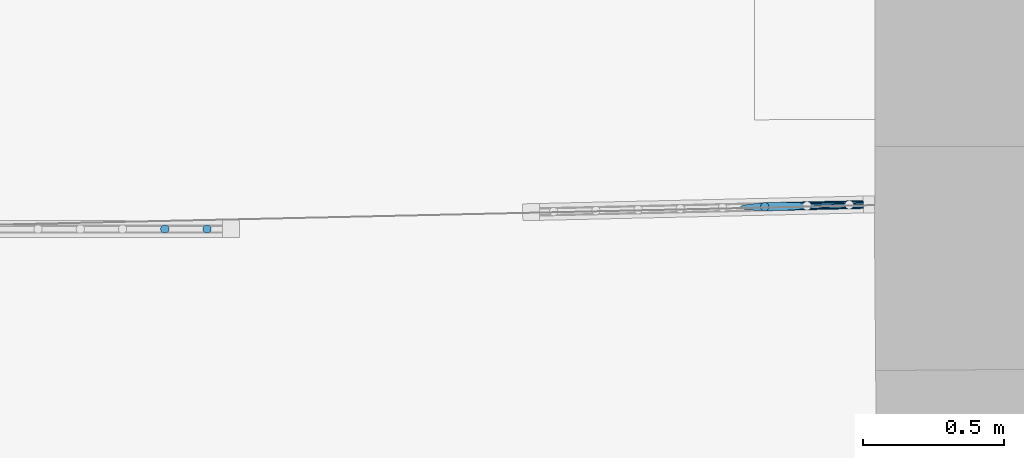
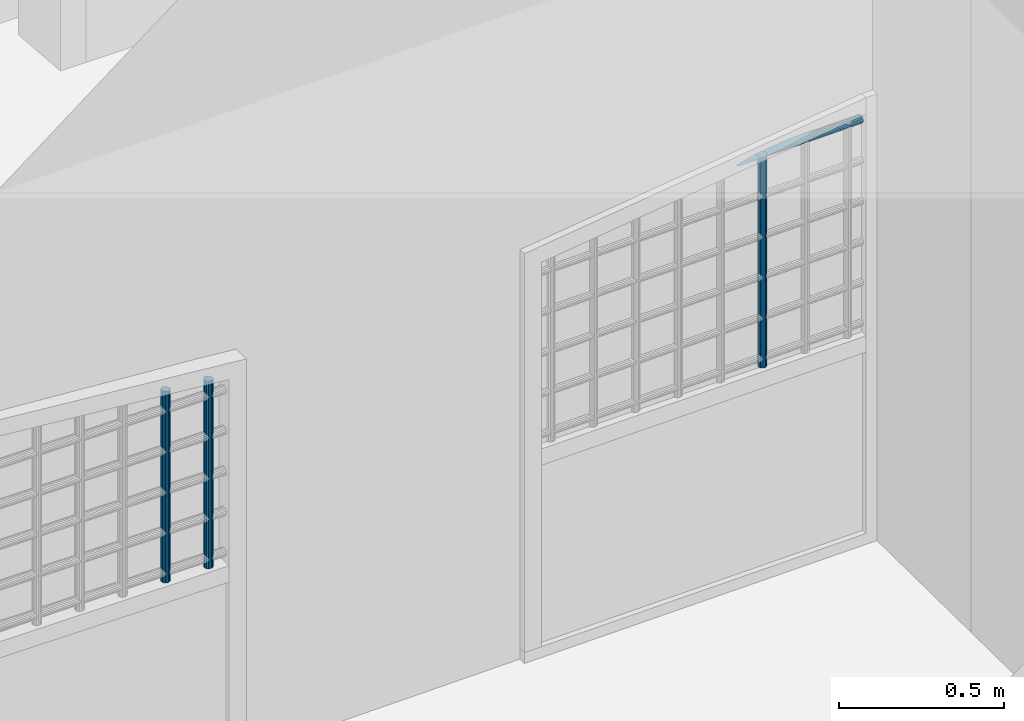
# One storey, part 58 of 133: 4 members, 2 elements without a shape of their own.
"""IFC2X3 building model written with IfcOpenShell, lengths in centimetres."""

from ifc_helpers import new_model, entity, si_unit, converted_unit, direction, frame, origin, origin_with_axes, place, context, subcontext, project, spatial, faceted_brep, material, type_object, element, aggregate, save


model = new_model("IFC2X3")

# Units and contexts
model_context = context("Model", 3, precision=0.0001, world=origin(), true_north=direction((0.225632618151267, 0.974212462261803, 0.0)))
body_context = subcontext(model_context, "Body", "Model", "MODEL_VIEW")
ifc_project = project(units=[si_unit("LENGTHUNIT", "METRE", prefix="CENTI"), si_unit("AREAUNIT", "SQUARE_METRE", prefix="CENTI"), si_unit("VOLUMEUNIT", "CUBIC_METRE", prefix="CENTI"), converted_unit("PLANEANGLEUNIT", "DEGREE", entity("IfcRatioMeasure", 0.0174532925), si_unit("PLANEANGLEUNIT", "RADIAN"), dimensions=[0, 0, 0, 0, 0, 0, 0])], contexts=[model_context])

# Site, building, storey
site_placement = place(None, origin_with_axes())
site = spatial("IfcSite", under=ifc_project, at=site_placement, Name="Default Site", CompositionType="ELEMENT")
building_placement = place(site_placement, origin_with_axes())
building = spatial("IfcBuilding", under=site, at=building_placement, Name="Default Building", CompositionType="ELEMENT")
storey_placement = place(building_placement, frame((0.0, 0.0, -291.400371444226), z_axis=(0.0, 0.0, 1.0), x_axis=(1.0, 0.0, 0.0)))
storey = spatial("IfcBuildingStorey", under=building, at=storey_placement, Name="Rez-de-Jardin", CompositionType="ELEMENT", Elevation=-291.400371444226)

# Assembly, members
building_element_proxy_type = type_object("IfcBuildingElementProxyType", Name="Type Object", PredefinedType="NOTDEFINED")
assembly_1_placement = place(storey_placement, frame((230.29031879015, 209.448968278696, 0.0), z_axis=(0.0, 0.0, 1.0), x_axis=(-0.999739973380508, -0.0228031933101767, 0.0)))
assembly_1 = element("IfcElementAssembly", 1, at=assembly_1_placement, inside=storey, type_object=building_element_proxy_type, Name="Panneau 76236", ObjectType="Precast panel", PredefinedType="USERDEFINED")
ifc_material = material(Name="Noyer 01")
member_1_placement = place(assembly_1_placement, frame((47.2249358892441, -2.48696978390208, 154.087889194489), z_axis=(0.112050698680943, 1.59542506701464e-08, 0.993702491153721), x_axis=(0.975500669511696, -0.190522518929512, -0.109998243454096)))
member_1 = element("IfcMember", 2, at=member_1_placement, material=ifc_material, Name="4294966848", context=body_context, shape_type="Brep", body=[
    faceted_brep([(1.66533453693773e-14, 2.0122792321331e-14, 6.66133814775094e-14), (-2.36796779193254, 4.30211422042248e-14, 1.98292383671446e-07), (-5.92800725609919, -0.349818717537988, 4.96408125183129e-07), (-10.2507347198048, -1.00726463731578, 8.58390939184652e-07), (-14.8147555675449, -1.89303825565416, 1.24057952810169e-06), (-19.069590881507, -2.90030401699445, 1.59687709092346e-06), (-22.5020363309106, -3.90756907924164, 1.88430818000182e-06), (-24.6980922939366, -4.79334326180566, 2.06820469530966e-06), (-25.3928824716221, -5.45078920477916, 2.12638604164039e-06), (-24.5026046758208, -5.80060916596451, 2.05183466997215e-06), (-22.1346397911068, -5.80060973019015, 1.85354259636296e-06), (-18.5745988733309, -5.45079073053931, 1.55542673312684e-06), (-14.2518714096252, -4.79334481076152, 1.19344391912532e-06), (-9.68785056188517, -3.90757119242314, 8.11255330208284e-07), (-5.43301524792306, -2.90030543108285, 4.54957767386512e-07), (-2.0005712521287, -1.89304065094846, 1.67526800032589e-07), (0.195487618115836, -1.00726590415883, -1.63699587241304e-08), (0.890276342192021, -0.349820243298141, -7.45511833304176e-08), (-42.0582601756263, -8.68516346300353, -4.93327064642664), (-41.9704663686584, -9.19072748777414, -4.84338429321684), (-41.9131634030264, -9.63917547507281, -4.58455232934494), (-41.8932621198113, -9.97641782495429, -4.18800043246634), (-41.9131638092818, -10.1617783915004, -3.70155032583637), (-41.9704667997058, -10.172899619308, -3.18388638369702), (-42.0582606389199, -10.0084403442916, -2.69743627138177), (-42.165954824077, -9.68823663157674, -2.30088436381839), (-42.280560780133, -9.25090987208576, -2.04205238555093), (-42.388254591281, -8.74920799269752, -1.9521660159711), (-42.4760483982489, -8.2436439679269, -2.04205236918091), (-42.5333513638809, -7.79519598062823, -2.30088433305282), (-42.553252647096, -7.45795363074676, -2.69743622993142), (-42.5333509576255, -7.27259306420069, -3.18388633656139), (-42.4760479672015, -7.261471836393, -3.70155027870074), (-42.3882541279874, -7.42593111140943, -4.18800039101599), (-42.2805599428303, -7.74613482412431, -4.58455229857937), (-42.1659539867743, -8.18346158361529, -4.84338427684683), (0.890276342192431, -0.349820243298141, 4.82385522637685e-06), (0.195486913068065, -1.0072651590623, 4.86276861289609e-06), (-41.9704670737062, -9.19072674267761, -4.84337941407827), (0.195487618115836, -1.00726590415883, -1.63699498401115e-08), (-2.00057124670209, -1.89304066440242, -5.52770087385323e-08), (-41.9131633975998, -9.63917548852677, -4.58455235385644), (-41.9704663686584, -9.19072748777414, -4.84338429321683), (-2.00057125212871, -1.89304065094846, -3.07655012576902e-08), (-5.43301546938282, -2.90030467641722, -4.64172173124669e-07), (-41.8932623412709, -9.97641707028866, -4.18799977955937), (-41.9131634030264, -9.63917547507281, -4.58455232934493), (-5.43301524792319, -2.90030543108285, -1.11707914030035e-06), (-9.68785018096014, -3.90757280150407, 3.54749132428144e-06), (-41.9131634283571, -10.1617800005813, -3.70155092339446), (-9.68785056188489, -3.90757119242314, 4.14504941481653e-06), (-14.2518714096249, -4.79334481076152, 4.79852804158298e-06), (-18.5745991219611, -5.45078909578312, 9.46878383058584e-06), (-42.0582608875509, -10.0084387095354, -2.69743686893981), (-18.5745988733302, -5.45079073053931, 1.00663418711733e-05), (-22.1346397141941, -5.80061051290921, 9.47665140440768e-06), (-42.165954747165, -9.6882374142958, -2.30088371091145), (-22.1346397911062, -5.80060973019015, 8.82374446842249e-06), (-24.5026046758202, -5.80060915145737, 9.1331700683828e-06), (-42.280560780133, -9.25090985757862, -2.04205241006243), (-42.1659548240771, -9.68823663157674, -2.30088436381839), (-24.5026046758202, -5.80060916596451, 9.15768156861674e-06), (-25.39288284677, -5.45079015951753, 9.04599639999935e-06), (-42.3882549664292, -8.74920894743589, -1.95216113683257), (-25.3928824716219, -5.45078920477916, 4.16685785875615e-06), (-24.6980915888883, -4.79334400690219, 4.29491302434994e-06), (-42.4760476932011, -8.24364471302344, -2.04205724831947), (-42.388254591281, -8.74920799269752, -1.95216601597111), (-24.698092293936, -4.79334326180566, 9.17405158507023e-06), (-22.5020363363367, -3.90756906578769, 8.87902154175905e-06), (-42.5333513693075, -7.79519596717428, -2.30088430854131), (-22.50203633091, -3.90756907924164, 8.85451003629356e-06), (-19.0695906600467, -2.90030477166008, 9.4548852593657e-06), (-42.5532524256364, -7.45795438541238, -2.69743688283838), (-19.0695908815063, -2.90030401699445, 1.01077922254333e-05), (-14.8147559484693, -1.89303664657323, 5.44322176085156e-06), (-42.5333513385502, -7.27259145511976, -3.1838857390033), (-42.553252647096, -7.45795363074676, -2.69743622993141), (-14.8147555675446, -1.89303825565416, 4.84566367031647e-06), (-10.2507347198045, -1.00726463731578, 4.19218504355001e-06), (-5.92800700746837, -0.349820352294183, -4.78070745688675e-07), (-42.3882538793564, -7.42593274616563, -4.18799979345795), (-42.4760479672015, -7.26147183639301, -3.70155027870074), (-5.92800725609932, -0.349818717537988, -1.07562878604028e-06), (-2.36796786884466, 7.82719105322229e-07, -6.52906869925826e-07), (-42.2805600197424, -7.74613404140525, -4.5845529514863), (-42.3882541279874, -7.42593111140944, -4.18800039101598), (-2.36796779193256, 4.30211422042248e-14, 6.66133814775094e-14), (1.63107430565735e-14, -1.45071192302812e-08, 2.45115703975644e-08), (-42.1659539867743, -8.18346159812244, -4.84338425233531), (-42.2805599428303, -7.74613482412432, -4.58455229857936), (0.890276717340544, -0.349819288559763, -5.52833172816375e-08), (-42.0582598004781, -8.68516250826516, -4.93327552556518), (-42.1659539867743, -8.18346158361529, -4.84338427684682)], [[[0, 1, 2, 3, 4, 5, 6, 7, 8, 9, 10, 11, 12, 13, 14, 15, 16, 17]], [[18, 19, 20, 21, 22, 23, 24, 25, 26, 27, 28, 29, 30, 31, 32, 33, 34, 35]], [[36, 37, 38, 18]], [[39, 40, 41, 42]], [[43, 44, 45, 46]], [[47, 48, 49, 21]], [[50, 51, 23, 22]], [[51, 52, 53, 23]], [[54, 55, 56, 24]], [[57, 58, 59, 60]], [[61, 62, 63, 26]], [[64, 65, 66, 67]], [[68, 69, 70, 28]], [[71, 72, 73, 29]], [[74, 75, 76, 77]], [[78, 79, 32, 31]], [[79, 80, 81, 82]], [[83, 84, 85, 86]], [[87, 88, 89, 90]], [[0, 91, 92, 93]]]),
])
member_2_placement = place(assembly_1_placement, frame((40.4095381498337, -2.48696978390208, 154.856407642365), z_axis=(0.112041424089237, 1.62055833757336e-05, 0.993703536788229), x_axis=(0.499207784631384, -0.864653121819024, -0.0562722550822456)))
member_2 = element("IfcMember", 3, at=member_2_placement, material=ifc_material, Name="4294966840", context=body_context, shape_type="Brep", body=[
    faceted_brep([(2.91433543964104e-14, -5.27355936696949e-14, 6.66133814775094e-14), (-0.521771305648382, -3.8857805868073e-14, 9.77919149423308e-06), (-1.0130548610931, -0.179018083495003, 1.89869725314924e-05), (-1.41459691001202, -0.515465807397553, 2.65127918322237e-05), (-1.67796162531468, -0.968756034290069, 3.14488508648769e-05), (-1.77138554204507, -1.48421907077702, 3.31998294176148e-05), (-1.68359938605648, -1.99968060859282, 3.15545154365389e-05), (-1.42519212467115, -2.45296968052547, 2.67113704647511e-05), (-1.02733248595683, -2.78941463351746, 1.92545679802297e-05), (-0.538005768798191, -2.96843100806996, 1.008346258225e-05), (-0.0162344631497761, -2.96843100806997, 3.04271154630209e-07), (0.475049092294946, -2.78941292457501, -8.90350988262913e-06), (0.876589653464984, -2.4529677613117, -1.6429301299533e-05), (1.13995436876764, -1.99967753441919, -2.13653603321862e-05), (1.23337977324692, -1.484211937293, -2.31163667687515e-05), (1.14559361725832, -0.968750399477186, -2.14710527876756e-05), (0.887186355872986, -0.515461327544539, -1.66279078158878e-05), (0.489326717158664, -0.179016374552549, -9.17110533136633e-06), (4.86805744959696, 7.35993112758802, -77.3233796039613), (5.26649130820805, 7.02447482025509, -77.33352340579), (5.52655079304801, 6.57403041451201, -77.3627144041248), (5.61686928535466, 6.06292885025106, -77.4074316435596), (5.52655043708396, 5.5528118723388, -77.4622821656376), (5.26649083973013, 5.10521213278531, -77.5206495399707), (4.86805683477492, 4.77411558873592, -77.5754939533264), (4.37930561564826, 4.59945747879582, -77.6202003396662), (3.85918653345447, 4.60230214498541, -77.6493767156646), (3.3704340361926, 4.78230716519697, -77.6595038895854), (2.97200017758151, 5.11776347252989, -77.6493600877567), (2.71194069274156, 5.56820787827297, -77.6201690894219), (2.6216222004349, 6.07930944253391, -77.5754518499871), (2.71193956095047, 6.58942385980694, -77.5206016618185), (2.9719991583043, 7.03702359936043, -77.4622342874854), (3.37043465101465, 7.36812270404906, -77.4073895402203), (3.8591858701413, 7.54278081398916, -77.3626831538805), (4.37930495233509, 7.53993614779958, -77.3335067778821), (0.48932671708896, -0.179016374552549, -1.28901695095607e-05), (0.887186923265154, -0.515460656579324, -1.65303586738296e-05), (5.26649187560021, 7.02447549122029, -77.3335233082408), (4.86805744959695, 7.35993112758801, -77.3233796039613), (0.887186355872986, -0.515461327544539, -1.66279078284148e-05), (1.14559364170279, -0.968750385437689, -3.1247480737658e-05), (5.52655081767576, 6.57403042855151, -77.3627144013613), (5.26649130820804, 7.02447482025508, -77.33352340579), (1.14559361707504, -0.968750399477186, -3.12502442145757e-05), (1.23337876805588, -1.48421210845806, -3.04068092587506e-05), (5.61686828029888, 6.062928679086, -77.4074317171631), (5.526550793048, 6.57403041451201, -77.3627144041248), (1.23337977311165, -1.484211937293, -3.03332057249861e-05), (1.13995509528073, -1.99967766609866, -2.26064156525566e-05), (5.52655116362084, 5.55281174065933, -77.4622821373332), (5.61686928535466, 6.06292885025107, -77.4074316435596), (1.13995436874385, -1.99967753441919, -2.26347199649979e-05), (0.876589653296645, -2.4529677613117, -2.5411187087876e-05), (0.876589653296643, -2.4529677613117, -2.54111870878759e-05), (0.475049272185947, -2.78941313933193, -1.16147277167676e-05), (4.86805701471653, 4.774115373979, -77.5754939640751), (0.475049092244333, -2.78941292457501, -1.16039790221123e-05), (-0.0162341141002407, -2.96843196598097, 9.25255550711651e-08), (4.37930596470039, 4.59945652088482, -77.6202004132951), (-0.0162344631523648, -2.96843100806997, 1.66154467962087e-07), (-0.538005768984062, -2.96843097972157, 1.68918428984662e-07), (3.85918653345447, 4.60230217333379, -77.6493767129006), (4.37930561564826, 4.59945747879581, -77.6202003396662), (-0.538005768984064, -2.96843100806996, 1.66154490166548e-07), (-1.02733218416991, -2.78941380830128, 1.31538781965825e-05), (3.37043433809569, 4.78230799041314, -77.6595037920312), (3.85918653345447, 4.6023021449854, -77.6493767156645), (-1.02733248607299, -2.78941463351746, 1.30563240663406e-05), (-1.42519269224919, -2.45297035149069, 1.66965132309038e-05), (2.97199961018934, 5.11776280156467, -77.6493601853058), (3.3704340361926, 4.78230716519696, -77.6595038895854), (-1.42519212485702, -2.45296968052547, 1.67940623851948e-05), (-1.68359941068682, -1.99968062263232, 3.14136352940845e-05), (2.7119406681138, 5.56820786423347, -77.6201690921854), (-1.68359938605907, -1.99968060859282, 3.14163987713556e-05), (-1.77138453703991, -1.48421889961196, 3.0572963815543e-05), (2.62162320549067, 6.07930961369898, -77.5754517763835), (2.71194069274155, 5.56820787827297, -77.6201690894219), (-1.77138554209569, -1.48421907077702, 3.0499360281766e-05), (-1.67796134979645, -0.968756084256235, 2.24777052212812e-05), (2.71193983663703, 6.58942380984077, -77.5206016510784), (-1.67796162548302, -0.968756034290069, 2.24669650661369e-05), (-1.41459691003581, -0.515465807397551, 2.5243432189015e-05), (-1.41459691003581, -0.515465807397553, 2.52434321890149e-05), (-1.01305438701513, -0.17901864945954, 1.17418067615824e-05), (3.37043512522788, 7.36812213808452, -77.4073895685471), (-1.01305486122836, -0.179018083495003, 1.17701335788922e-05), (-0.52177165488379, 9.57910952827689e-07, 7.36290015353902e-08), (3.85918552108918, 7.54278177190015, -77.3626830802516), (3.37043465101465, 7.36812270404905, -77.4073895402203), (-0.521771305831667, -3.88578058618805e-14, 8.88178419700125e-14), (2.75885141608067e-14, -2.83484426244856e-08, -2.76387188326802e-09), (4.37930495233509, 7.53993611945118, -77.333506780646), (0.48932641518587, -0.17901719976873, -1.298772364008e-05), (4.86805714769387, 7.35993030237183, -77.3233797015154), (4.37930495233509, 7.53993614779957, -77.3335067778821)], [[[0, 1, 2, 3, 4, 5, 6, 7, 8, 9, 10, 11, 12, 13, 14, 15, 16, 17]], [[18, 19, 20, 21, 22, 23, 24, 25, 26, 27, 28, 29, 30, 31, 32, 33, 34, 35]], [[36, 37, 38, 39]], [[40, 41, 42, 43]], [[44, 45, 46, 47]], [[48, 49, 50, 51]], [[52, 53, 23, 22]], [[54, 55, 56, 23]], [[57, 58, 59, 24]], [[60, 61, 62, 63]], [[64, 65, 66, 67]], [[68, 69, 70, 71]], [[72, 73, 74, 28]], [[75, 76, 77, 78]], [[79, 80, 81, 30]], [[82, 83, 32, 31]], [[84, 85, 86, 32]], [[87, 88, 89, 90]], [[91, 92, 93, 34]], [[0, 94, 95, 96]]]),
])
aggregate(assembly_1, [member_1, member_2])

assembly_2_placement = place(storey_placement, frame((-151.298940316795, 206.642558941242, 0.0), z_axis=(0.0, 0.0, 1.0), x_axis=(1.0, 0.0, 0.0)))
assembly_2 = element("IfcElementAssembly", 4, at=assembly_2_placement, inside=storey, type_object=building_element_proxy_type, Name="Panneau 76235", ObjectType="Precast panel", PredefinedType="USERDEFINED")
member_3_placement = place(assembly_2_placement, frame((130.909538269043, -2.48696978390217, 147.584021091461), z_axis=(0.089400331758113, 6.5936123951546e-06, 0.995995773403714), x_axis=(0.499497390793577, -0.865154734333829, -0.0448290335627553)))
member_3 = element("IfcMember", 5, at=member_3_placement, material=ifc_material, Name="4294966759", context=body_context, shape_type="Brep", body=[
    faceted_brep([(0.0, 0.0, 4.44089209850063e-14), (-0.521468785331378, 1.10308301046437e-22, 3.9742752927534e-06), (-1.01210942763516, -0.17870890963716, 7.71359970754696e-06), (-1.41274736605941, -0.514578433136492, 1.07669856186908e-05), (-1.67505429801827, -0.967088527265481, 1.27661080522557e-05), (-1.76739088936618, -1.4816576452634, 1.34698338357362e-05), (-1.67862588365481, -1.99623114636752, 1.2793328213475e-05), (-1.41946349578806, -2.44874031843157, 1.08181713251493e-05), (-1.02116539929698, -2.78461079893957, 7.78261807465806e-06), (-0.531762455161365, -2.96331477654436, 4.05272654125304e-06), (-0.0102936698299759, -2.96331477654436, 7.84512929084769e-08), (0.4803469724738, -2.7846058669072, -3.660873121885e-06), (0.880978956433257, -2.4487466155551, -6.71421365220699e-06), (1.14328588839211, -1.99623652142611, -8.71333608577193e-06), (1.23562843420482, -1.48165713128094, -9.41710725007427e-06), (1.14686342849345, -0.967083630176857, -8.74060162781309e-06), (0.887701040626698, -0.514574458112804, -6.76544473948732e-06), (0.489396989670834, -0.178714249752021, -3.72984610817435e-06), (3.65149161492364, 5.27719197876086, -70.2543135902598), (4.05015959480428, 4.94195969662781, -70.2624037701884), (4.31036994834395, 4.4912586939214, -70.2856930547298), (4.40074083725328, 3.97945599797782, -70.3213718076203), (4.3103681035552, 3.46827533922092, -70.3651373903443), (4.05015763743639, 3.01938250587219, -70.411710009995), (3.65149546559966, 2.68692198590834, -70.4554721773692), (3.16246070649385, 2.51098388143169, -70.4911465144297), (2.64203988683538, 2.51279205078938, -70.514429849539), (2.15300087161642, 2.6921239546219, -70.5225143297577), (1.75433884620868, 3.02736650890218, -70.5144230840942), (1.49412849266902, 3.47806751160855, -70.4911337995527), (1.40375760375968, 3.98987020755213, -70.4554550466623), (1.49412438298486, 4.50104059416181, -70.4116905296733), (1.75433484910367, 4.94993342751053, -70.3651179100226), (2.1530029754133, 5.28240421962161, -70.3213546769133), (2.64203773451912, 5.45834232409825, -70.2856803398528), (3.16245855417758, 5.45653415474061, -70.2623970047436), (0.489396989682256, -0.178714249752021, -2.23121197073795e-06), (0.887697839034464, -0.51457825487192, -7.20439999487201e-06), (4.05015639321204, 4.94195589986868, -70.2624042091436), (3.65149161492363, 5.27719197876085, -70.2543135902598), (0.887701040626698, -0.514574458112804, -6.7654447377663e-06), (1.14686345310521, -0.967083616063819, -1.27126717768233e-05), (4.310369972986, 4.49125870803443, -70.2856930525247), (4.05015959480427, 4.9419596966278, -70.2624037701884), (1.14686342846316, -0.967083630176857, -1.27148769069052e-05), (1.23562742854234, -1.48165730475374, -1.25759650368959e-05), (4.40073983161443, 3.97945582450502, -70.3213718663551), (1.23562843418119, -1.48165713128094, -1.25172301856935e-05), (1.14328761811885, -1.9962368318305, -1.344997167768e-05), (4.31036983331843, 3.46827502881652, -70.3651373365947), (4.40074083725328, 3.97945599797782, -70.3213718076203), (1.14328588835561, -1.99623652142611, -1.35037212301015e-05), (0.880978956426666, -2.4487466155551, -7.57995850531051e-06), (0.880978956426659, -2.4487466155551, -7.57995850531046e-06), (0.480348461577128, -2.78460764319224, -5.22202103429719e-06), (3.65149695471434, 2.6869202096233, -70.4554722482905), (4.05015763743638, 3.0193825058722, -70.411710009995), (0.480346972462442, -2.7846058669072, -5.15109979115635e-06), (-0.0102933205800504, -2.96331573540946, -5.96368234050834e-07), (3.16246105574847, 2.51098292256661, -70.4911465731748), (3.65149546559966, 2.68692198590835, -70.4554721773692), (-0.0102936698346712, -2.96331477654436, -5.37623057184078e-07), (-0.531762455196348, -2.96331474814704, -5.35417717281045e-07), (2.64203988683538, 2.51279207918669, -70.5144298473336), (3.16246070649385, 2.51098388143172, -70.4911465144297), (-0.53176245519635, -2.96331477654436, -5.37623034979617e-07), (-1.02116309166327, -2.78460447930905, 1.22249987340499e-06), (2.15300317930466, 2.69213027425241, -70.5225137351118), (-1.02116539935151, -2.78461079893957, 6.27853946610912e-07), (-1.41946783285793, -2.4487454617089, 5.63319128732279e-06), (1.75433450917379, 3.02736136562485, -70.5144236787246), (2.15300087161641, 2.6921239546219, -70.5225143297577), (-1.41946349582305, -2.44874031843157, 6.22782174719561e-06), (-1.67862590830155, -1.99623116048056, 1.21750487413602e-05), (1.49412846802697, 3.47806749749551, -70.4911338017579), (-1.6786258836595, -1.99623114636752, 1.21772538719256e-05), (-1.76738988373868, -1.4816574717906, 1.20383420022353e-05), (1.40375860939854, 3.98987038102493, -70.4554549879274), (-1.76739088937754, -1.4816576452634, 1.19796071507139e-05), (-1.67505201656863, -0.967088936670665, 1.19712557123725e-05), (1.49412666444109, 4.50104018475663, -70.4116904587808), (-1.67505429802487, -0.967088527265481, 1.19003632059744e-05), (-1.41274736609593, -0.514578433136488, 5.97660048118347e-06), (1.75433484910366, 4.94993342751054, -70.3651179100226), (1.49412438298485, 4.50104059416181, -70.4116905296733), (-1.41274736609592, -0.514578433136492, 5.97660048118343e-06), (-1.0121082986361, -0.178710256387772, 4.55970541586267e-06), (2.15300410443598, 5.282402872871, -70.3213547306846), (1.75433484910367, 4.94993342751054, -70.3651179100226), (-1.01210942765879, -0.17870890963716, 4.61347675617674e-06), (-0.521469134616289, 9.58865109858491e-07, 5.87451992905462e-08), (2.6420373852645, 5.45834328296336, -70.2856802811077), (2.15300297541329, 5.28240421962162, -70.3213546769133), (-0.521468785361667, 0.0, 2.22044604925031e-14), (-1.55574197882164e-15, -2.83973150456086e-08, -2.20527352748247e-09), (3.16245855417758, 5.45653412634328, -70.2623970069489), (0.489398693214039, -0.178709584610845, -1.79224529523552e-06), (3.65149331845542, 5.27719664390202, -70.2543131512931), (3.16245855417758, 5.45653415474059, -70.2623970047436)], [[[0, 1, 2, 3, 4, 5, 6, 7, 8, 9, 10, 11, 12, 13, 14, 15, 16, 17]], [[18, 19, 20, 21, 22, 23, 24, 25, 26, 27, 28, 29, 30, 31, 32, 33, 34, 35]], [[36, 37, 38, 39]], [[40, 41, 42, 43]], [[44, 45, 46, 20]], [[47, 48, 49, 50]], [[51, 52, 23, 22]], [[53, 54, 55, 56]], [[57, 58, 59, 60]], [[61, 62, 63, 64]], [[65, 66, 67, 26]], [[68, 69, 70, 71]], [[72, 73, 74, 28]], [[75, 76, 77, 29]], [[78, 79, 80, 30]], [[81, 82, 83, 84]], [[85, 86, 87, 88]], [[89, 90, 91, 92]], [[93, 94, 95, 34]], [[0, 96, 97, 98]]]),
])
member_4_placement = place(assembly_2_placement, frame((145.909535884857, -2.48696978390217, 146.237564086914), z_axis=(0.089400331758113, 6.5936123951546e-06, 0.995995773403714), x_axis=(0.499497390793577, -0.865154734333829, -0.0448290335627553)))
member_4 = element("IfcMember", 6, at=member_4_placement, material=ifc_material, Name="4294966758", context=body_context, shape_type="Brep", body=[
    faceted_brep([(2.22044604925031e-14, 0.0, 4.44089209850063e-14), (-0.521468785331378, 1.10308301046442e-22, 3.97427529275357e-06), (-1.01210942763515, -0.17870890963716, 7.71359970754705e-06), (-1.41274141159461, -0.514568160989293, 1.0766940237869e-05), (-1.67504834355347, -0.967078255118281, 1.2766062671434e-05), (-1.76739088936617, -1.48165764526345, 1.34698338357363e-05), (-1.6786258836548, -1.99623114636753, 1.27933282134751e-05), (-1.41946349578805, -2.44874031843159, 1.08181713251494e-05), (-1.02116593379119, -2.78461172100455, 7.78262214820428e-06), (-0.531762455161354, -2.96331477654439, 4.05272654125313e-06), (-0.0102936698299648, -2.96331477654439, 7.84512929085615e-08), (0.480346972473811, -2.78460586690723, -3.66087312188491e-06), (0.88098491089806, -2.4487363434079, -6.71425903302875e-06), (1.14329184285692, -1.99622624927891, -8.71338146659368e-06), (1.23562843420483, -1.48165713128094, -9.41710725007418e-06), (1.14686342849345, -0.967083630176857, -8.74060162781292e-06), (0.887701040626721, -0.514574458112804, -6.76544473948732e-06), (0.489402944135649, -0.178703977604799, -3.72989148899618e-06), (3.59113720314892, 5.17305593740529, -68.913247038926), (3.98979922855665, 4.83781338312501, -68.9213382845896), (4.2500095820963, 4.3871123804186, -68.944627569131), (4.34038047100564, 3.87530968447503, -68.9803063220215), (4.25001369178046, 3.36413929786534, -69.0240708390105), (3.98980322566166, 2.91524646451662, -69.0706434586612), (3.59113509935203, 2.58277567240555, -69.1144066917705), (3.10210034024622, 2.4068375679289, -69.1500810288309), (2.58167952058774, 2.40864573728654, -69.1733643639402), (2.09264050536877, 2.58797764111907, -69.181448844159), (1.69397847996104, 2.92322019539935, -69.1733575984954), (1.43376812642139, 3.37392119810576, -69.150068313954), (1.34339723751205, 3.88572389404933, -69.1143895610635), (1.43376997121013, 4.39690455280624, -69.0706239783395), (1.69398043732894, 4.84579738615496, -69.0240513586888), (2.09264260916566, 5.17825790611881, -68.9802891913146), (2.58167736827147, 5.35419601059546, -68.9446148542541), (3.10209818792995, 5.35238784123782, -68.9213315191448), (0.489402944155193, -0.178703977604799, -1.16547698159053e-06), (0.887705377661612, -0.514569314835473, -6.17081427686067e-06), (3.98980356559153, 4.83781852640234, -68.9213376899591), (3.59113720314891, 5.17305593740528, -68.913247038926), (0.887701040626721, -0.514574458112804, -6.7654447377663e-06), (1.14686345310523, -0.967083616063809, -1.27126717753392e-05), (4.25000960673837, 4.38711239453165, -68.9446275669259), (3.98979922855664, 4.83781338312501, -68.9213382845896), (1.14686342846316, -0.967083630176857, -1.27148769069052e-05), (1.23562742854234, -1.48165730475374, -1.25759650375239e-05), (4.34037946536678, 3.87530951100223, -68.9803063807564), (1.2356284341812, -1.48165713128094, -1.25172301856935e-05), (1.14328956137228, -1.99622583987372, -1.25088787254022e-05), (4.25001141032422, 3.36413970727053, -69.024070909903), (1.14329184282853, -1.99622624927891, -1.24379862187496e-05), (0.880984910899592, -2.4487363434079, -6.51422351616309e-06), (3.98980322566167, 2.91524646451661, -69.0706434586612), (4.25001369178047, 3.36413929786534, -69.0240708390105), (0.880984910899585, -2.4487363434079, -6.51422351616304e-06), (0.480345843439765, -2.78460452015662, -5.09732845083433e-06), (3.59113397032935, 2.58277701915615, -69.1144066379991), (0.480346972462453, -2.78460586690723, -5.15109979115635e-06), (-0.0102933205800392, -2.9633157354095, -5.96368234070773e-07), (3.10210068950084, 2.40683660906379, -69.1500810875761), (3.59113509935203, 2.58277567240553, -69.1144066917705), (-0.0102936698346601, -2.96331477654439, -5.37623057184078e-07), (-0.531762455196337, -2.96331474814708, -5.35417717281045e-07), (2.58167952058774, 2.40864576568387, -69.1733643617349), (3.10210034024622, 2.40683756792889, -69.1500810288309), (-0.531762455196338, -2.96331477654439, -5.37623034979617e-07), (-1.02116362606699, -2.78460540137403, 1.30956947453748e-05), (2.09264281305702, 2.58798396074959, -69.181448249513), (2.58167952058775, 2.40864573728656, -69.1733643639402), (-1.02116593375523, -2.78461172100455, 1.25010488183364e-05), (-1.41946783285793, -2.44874546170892, 5.63319128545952e-06), (1.69397414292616, 2.92321505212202, -69.1733581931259), (2.09264050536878, 2.58797764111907, -69.181448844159), (-1.41946349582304, -2.44874031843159, 6.22782174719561e-06), (-1.67862590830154, -1.99623116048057, 1.2175048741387e-05), (1.43376810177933, 3.37392118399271, -69.1500683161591), (1.69397847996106, 2.92322019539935, -69.1733575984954), (-1.67862588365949, -1.99623114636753, 1.21772538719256e-05), (-1.76738988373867, -1.48165747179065, 1.20383420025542e-05), (1.3433982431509, 3.88572406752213, -69.1143895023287), (1.43376812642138, 3.37392119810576, -69.150068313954), (-1.76739088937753, -1.48165764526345, 1.19796071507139e-05), (-1.67505007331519, -0.967077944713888, 1.29123486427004e-05), (1.43376824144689, 4.39690486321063, -69.0706240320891), (-1.67504834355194, -0.967078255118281, 1.29660981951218e-05), (-1.412741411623, -0.514568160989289, 7.04233549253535e-06), (1.43376997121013, 4.39690455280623, -69.0706239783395), (-1.412741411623, -0.514568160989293, 7.0423354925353e-06), (-1.01211091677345, -0.178707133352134, 4.68439799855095e-06), (2.09264112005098, 5.17825968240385, -68.9802891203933), (1.69398043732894, 4.84579738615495, -69.0240513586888), (-1.01210942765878, -0.17870890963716, 4.61347675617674e-06), (-0.521469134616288, 9.58865106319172e-07, 5.87451990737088e-08), (2.58167701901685, 5.35419696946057, -68.9446147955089), (2.09264260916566, 5.17825790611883, -68.9802891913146), (-0.521468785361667, 0.0, 2.22044604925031e-14), (2.06487185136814e-14, -2.83973150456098e-08, -2.20527352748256e-09), (3.10209818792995, 5.35238781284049, -68.9213315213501), (2.58167736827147, 5.35419601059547, -68.9446148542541), (0.489400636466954, -0.178710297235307, -1.7601229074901e-06), (3.59113489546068, 5.17304961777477, -68.913247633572), (3.10209818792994, 5.3523878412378, -68.9213315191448)], [[[0, 1, 2, 3, 4, 5, 6, 7, 8, 9, 10, 11, 12, 13, 14, 15, 16, 17]], [[18, 19, 20, 21, 22, 23, 24, 25, 26, 27, 28, 29, 30, 31, 32, 33, 34, 35]], [[36, 37, 38, 39]], [[40, 41, 42, 43]], [[44, 45, 46, 20]], [[47, 48, 49, 21]], [[50, 51, 52, 53]], [[54, 55, 56, 23]], [[57, 58, 59, 60]], [[61, 62, 63, 64]], [[65, 66, 67, 68]], [[69, 70, 71, 72]], [[73, 74, 75, 76]], [[77, 78, 79, 80]], [[81, 82, 83, 30]], [[84, 85, 32, 86]], [[87, 88, 89, 90]], [[91, 92, 93, 94]], [[95, 96, 97, 98]], [[0, 99, 100, 101]]]),
])
aggregate(assembly_2, [member_3, member_4])

save(model, "model.ifc")
